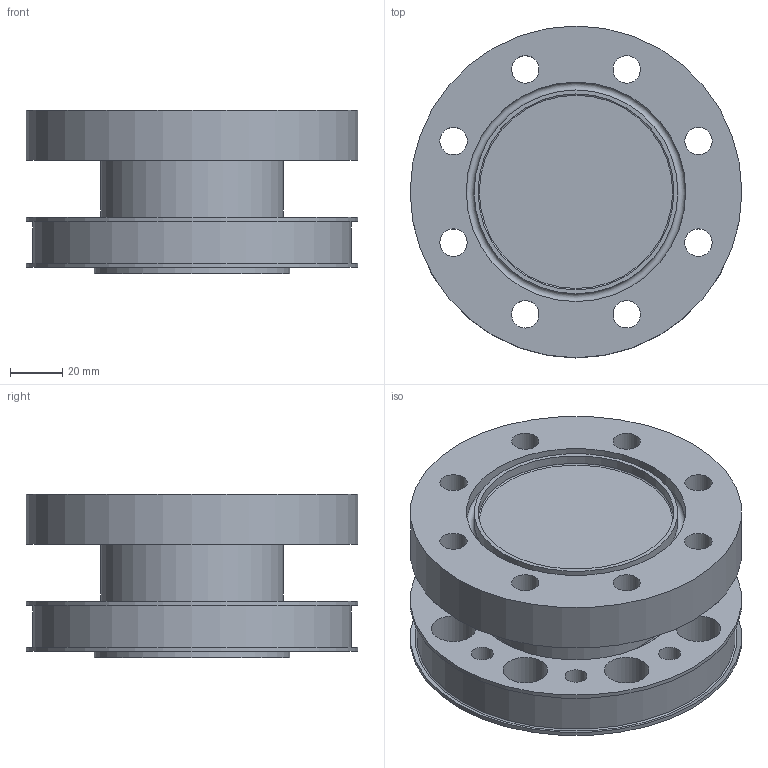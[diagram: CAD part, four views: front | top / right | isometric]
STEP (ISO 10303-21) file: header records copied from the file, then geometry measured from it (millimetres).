
FILE_DESCRIPTION(/* description */ (''),/* implementation_level */ '2;1');
FILE_NAME(/* name */ 'F:\Sensorik\Standard_Messflansche\XtreMA\Fertigung\BG2\Taschendesign\Vertrieb\XtreMA_BG2_NEU_V.stp',/* time_stamp */ '2021-09-06T11:19:29+02:00',/* author */ ('lander'),/* organization */ (''),/* preprocessor_version */ 'ST-DEVELOPER v18.1',/* originating_system */ 'Autodesk Inventor 2021',/* authorisation */ '');
FILE_SCHEMA (('AUTOMOTIVE_DESIGN { 1 0 10303 214 3 1 1 }'));
Length unit declared in the file: millimetre
Products named in the file (1): XtreMA_BG2_500Nm_HBM
Bounding box: 127 x 127 x 62.5 mm (x, y, z)
Volume: 465113.3 mm3; surface area: 88654.7 mm2
Topology: 1 solids, 1 shells, 56 faces, 142 edges, 94 vertices
Faces by surface type: cylinder 37, plane 8, torus 7, cone 4
Full cylindrical faces by diameter (mm): 8.376 x8, 10.5 x8, 17 x8, 70 x1, 75 x2, 76 x1, 78 x3, 82 x1, 84 x1, 122 x1, 127 x3
Entity records: 1888 total; most frequent: DIRECTION 357, CARTESIAN_POINT 293, ORIENTED_EDGE 284, AXIS2_PLACEMENT_3D 158, EDGE_CURVE 142, EDGE_LOOP 110, CIRCLE 101, VERTEX_POINT 94
